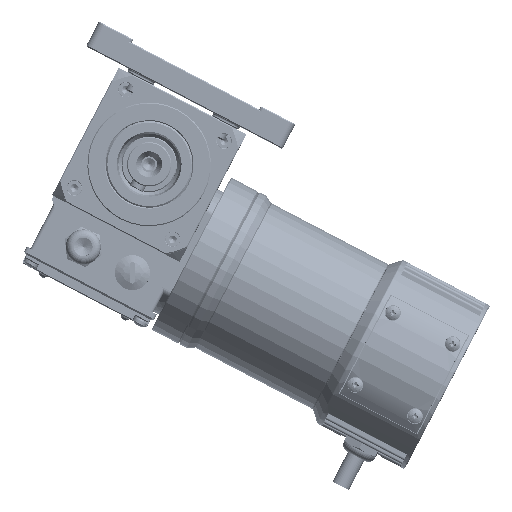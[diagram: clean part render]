
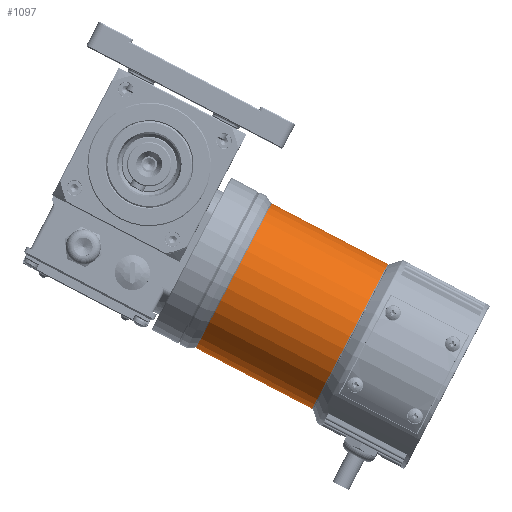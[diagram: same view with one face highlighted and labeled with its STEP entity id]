
A CAD part, top view. The second image highlights one B-rep face of the part: STEP entity #1097.
In plain terms, the highlighted cylindrical face has radius 44.25 mm (diameter 88.5 mm), a partial arc.
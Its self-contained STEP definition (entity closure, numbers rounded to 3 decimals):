
#1023=CARTESIAN_POINT('',(232.432,-101.293,-217.319));
#1024=VERTEX_POINT('',#1023);
#1033=CARTESIAN_POINT('',(191.432,-179.723,-217.319));
#1034=VERTEX_POINT('',#1033);
#1060=CARTESIAN_POINT('',(243.392,-156.955,-217.319));
#1061=DIRECTION('',(-0.886,0.463,0.));
#1062=DIRECTION('',(-0.463,-0.886,0.));
#1063=AXIS2_PLACEMENT_3D('',#1060,#1061,#1062);
#1064=CYLINDRICAL_SURFACE('',#1063,44.25);
#1065=CARTESIAN_POINT('',(254.353,-212.616,-217.319));
#1066=VERTEX_POINT('',#1065);
#1067=CARTESIAN_POINT('',(254.353,-212.616,-217.319));
#1068=DIRECTION('',(-0.886,0.463,0.));
#1069=VECTOR('',#1068,71.0);
#1070=LINE('',#1067,#1069);
#1071=EDGE_CURVE('',#1066,#1034,#1070,.T.);
#1072=ORIENTED_EDGE('',*,*,#1071,.F.);
#1073=CARTESIAN_POINT('',(295.353,-134.186,-217.319));
#1074=VERTEX_POINT('',#1073);
#1075=CARTESIAN_POINT('',(274.853,-173.401,-217.319));
#1076=DIRECTION('',(0.886,-0.463,0.));
#1077=DIRECTION('',(0.463,0.886,0.));
#1078=AXIS2_PLACEMENT_3D('',#1075,#1076,#1077);
#1079=CIRCLE('',#1078,44.25);
#1080=EDGE_CURVE('',#1074,#1066,#1079,.T.);
#1081=ORIENTED_EDGE('',*,*,#1080,.F.);
#1082=CARTESIAN_POINT('',(232.432,-101.293,-217.319));
#1083=DIRECTION('',(0.886,-0.463,0.));
#1084=VECTOR('',#1083,71.);
#1085=LINE('',#1082,#1084);
#1086=EDGE_CURVE('',#1024,#1074,#1085,.T.);
#1087=ORIENTED_EDGE('',*,*,#1086,.F.);
#1088=CARTESIAN_POINT('',(211.932,-140.508,-217.319));
#1089=DIRECTION('',(-0.886,0.463,0.));
#1090=DIRECTION('',(0.463,0.886,0.));
#1091=AXIS2_PLACEMENT_3D('',#1088,#1089,#1090);
#1092=CIRCLE('',#1091,44.25);
#1093=EDGE_CURVE('',#1034,#1024,#1092,.T.);
#1094=ORIENTED_EDGE('',*,*,#1093,.F.);
#1095=EDGE_LOOP('',(#1072,#1081,#1087,#1094));
#1096=FACE_OUTER_BOUND('',#1095,.T.);
#1097=ADVANCED_FACE('',(#1096),#1064,.T.);
